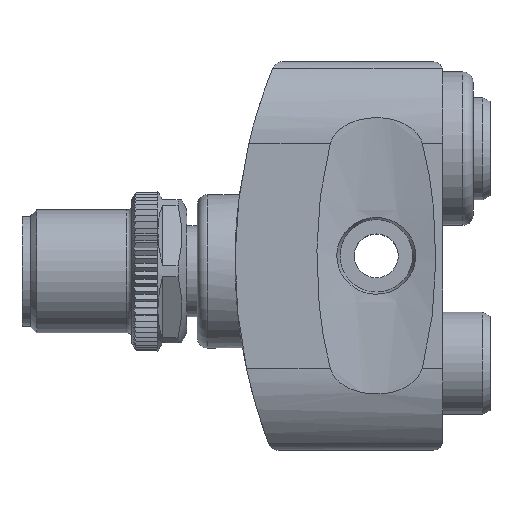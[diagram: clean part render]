
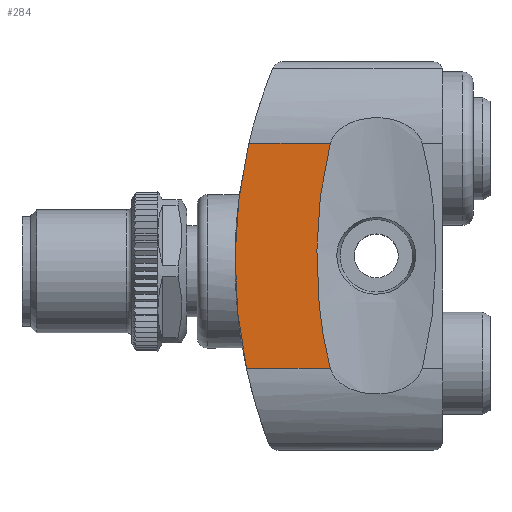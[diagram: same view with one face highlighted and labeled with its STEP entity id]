
A CAD part, top view. The second image highlights one B-rep face of the part: STEP entity #284.
In plain terms, the highlighted planar face has unit normal (0, 0, 1).
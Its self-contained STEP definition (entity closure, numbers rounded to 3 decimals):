
#284 = ADVANCED_FACE( '', ( #753 ), #754, .T. );
#753 = FACE_OUTER_BOUND( '', #1271, .T. );
#754 = PLANE( '', #1272 );
#1271 = EDGE_LOOP( '', ( #2974, #2975, #2976, #2977 ) );
#1272 = AXIS2_PLACEMENT_3D( '', #2978, #2979, #2980 );
#2974 = ORIENTED_EDGE( '', *, *, #3553, .F. );
#2975 = ORIENTED_EDGE( '', *, *, #3135, .F. );
#2976 = ORIENTED_EDGE( '', *, *, #3118, .T. );
#2977 = ORIENTED_EDGE( '', *, *, #3126, .T. );
#2978 = CARTESIAN_POINT( '', ( -15.683, 18., 8. ) );
#2979 = DIRECTION( '', ( 0., 0., 1. ) );
#2980 = DIRECTION( '', ( 1., 0., 0. ) );
#3118 = EDGE_CURVE( '', #3725, #3742, #3744, .T. );
#3126 = EDGE_CURVE( '', #3742, #3756, #3759, .T. );
#3135 = EDGE_CURVE( '', #3725, #3765, #3774, .T. );
#3553 = EDGE_CURVE( '', #3765, #3756, #4476, .T. );
#3725 = VERTEX_POINT( '', #4937 );
#3742 = VERTEX_POINT( '', #4992 );
#3744 = CIRCLE( '', #5007, 50. );
#3756 = VERTEX_POINT( '', #5128 );
#3759 = LINE( '', #5158, #5159 );
#3765 = VERTEX_POINT( '', #5167 );
#3774 = LINE( '', #5208, #5209 );
#4476 = B_SPLINE_CURVE_WITH_KNOTS( '', 3, ( #6632, #6633, #6634, #6635, #6636, #6637, #6638, #6639, #6640, #6641, #6642, #6643, #6644, #6645, #6646, #6647, #6648, #6649, #6650, #6651, #6652, #6653 ), .UNSPECIFIED., .F., .F., ( 4, 2, 2, 2, 2, 2, 2, 2, 2, 2, 4 ), ( 0.066, 0.069, 0.072, 0.075, 0.077, 0.078, 0.079, 0.08, 0.083, 0.086, 0.088 ), .UNSPECIFIED. );
#4937 = CARTESIAN_POINT( '', ( -18.97, 11., 8. ) );
#4992 = CARTESIAN_POINT( '', ( -19.195, -11., 8. ) );
#5007 = AXIS2_PLACEMENT_3D( '', #6848, #6849, #6850 );
#5128 = CARTESIAN_POINT( '', ( -10.997, -11., 8. ) );
#5158 = CARTESIAN_POINT( '', ( -25., -11., 8. ) );
#5159 = VECTOR( '', #6853, 1000. );
#5167 = CARTESIAN_POINT( '', ( -10.997, 11., 8. ) );
#5208 = CARTESIAN_POINT( '', ( -25., 11., 8. ) );
#5209 = VECTOR( '', #6864, 1000. );
#6632 = CARTESIAN_POINT( '', ( -10.997, 11., 8. ) );
#6633 = CARTESIAN_POINT( '', ( -11.239, 10.11, 8. ) );
#6634 = CARTESIAN_POINT( '', ( -11.437, 9.211, 8. ) );
#6635 = CARTESIAN_POINT( '', ( -11.767, 7.401, 8. ) );
#6636 = CARTESIAN_POINT( '', ( -11.899, 6.489, 8. ) );
#6637 = CARTESIAN_POINT( '', ( -12.108, 4.654, 8. ) );
#6638 = CARTESIAN_POINT( '', ( -12.185, 3.73, 8. ) );
#6639 = CARTESIAN_POINT( '', ( -12.287, 1.879, 8. ) );
#6640 = CARTESIAN_POINT( '', ( -12.313, 0.952, 8. ) );
#6641 = CARTESIAN_POINT( '', ( -12.313, -0.207, 8. ) );
#6642 = CARTESIAN_POINT( '', ( -12.312, -0.441, 8. ) );
#6643 = CARTESIAN_POINT( '', ( -12.306, -0.906, 8. ) );
#6644 = CARTESIAN_POINT( '', ( -12.301, -1.139, 8. ) );
#6645 = CARTESIAN_POINT( '', ( -12.282, -1.836, 8. ) );
#6646 = CARTESIAN_POINT( '', ( -12.264, -2.3, 8. ) );
#6647 = CARTESIAN_POINT( '', ( -12.188, -3.689, 8. ) );
#6648 = CARTESIAN_POINT( '', ( -12.112, -4.612, 8. ) );
#6649 = CARTESIAN_POINT( '', ( -11.905, -6.451, 8. ) );
#6650 = CARTESIAN_POINT( '', ( -11.773, -7.367, 8. ) );
#6651 = CARTESIAN_POINT( '', ( -11.442, -9.19, 8. ) );
#6652 = CARTESIAN_POINT( '', ( -11.243, -10.098, 8. ) );
#6653 = CARTESIAN_POINT( '', ( -10.997, -11., 8. ) );
#6848 = CARTESIAN_POINT( '', ( 29.69, -0.5, 8. ) );
#6849 = DIRECTION( '', ( 0., 0., 1. ) );
#6850 = DIRECTION( '', ( 1., 0., 0. ) );
#6853 = DIRECTION( '', ( 1., 0., 0. ) );
#6864 = DIRECTION( '', ( 1., 0., 0. ) );
